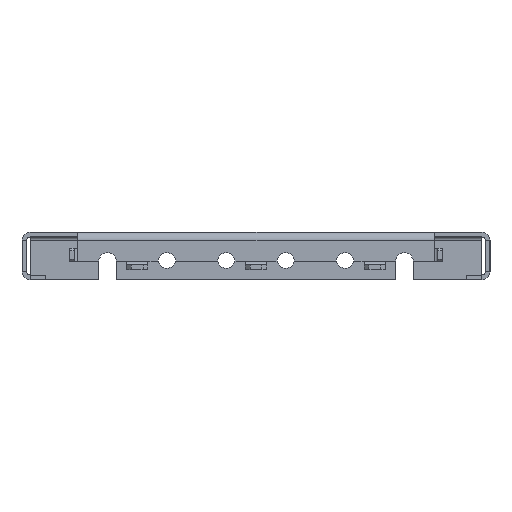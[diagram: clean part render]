
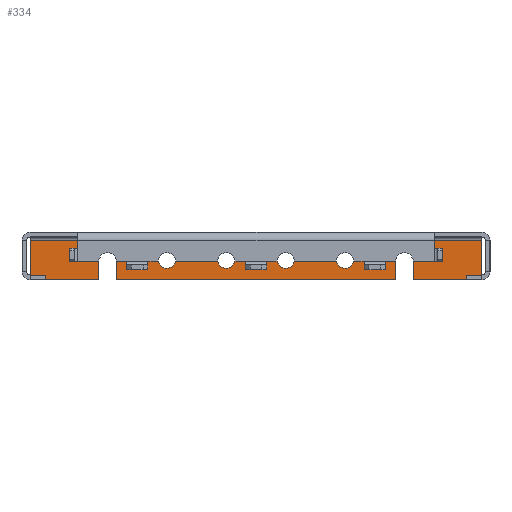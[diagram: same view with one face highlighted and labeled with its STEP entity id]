
A CAD part, left-side view. The second image highlights one B-rep face of the part: STEP entity #334.
In plain terms, the highlighted planar face has unit normal (-1, 0, 0).
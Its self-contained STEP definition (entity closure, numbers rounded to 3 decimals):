
#334=ADVANCED_FACE('',(#2698,#2700,#2702,#2704,#2706),#2708,.F.);
#2698=FACE_BOUND('',#2699,.T.);
#2699=EDGE_LOOP('',(#5445,#5446,#5447,#5448,#5449,#5450,#5451,#5452,#5453,#5454,
#5455,#5456));
#2700=FACE_BOUND('',#2701,.T.);
#2701=EDGE_LOOP('',(#5457));
#2702=FACE_BOUND('',#2703,.T.);
#2703=EDGE_LOOP('',(#5458));
#2704=FACE_BOUND('',#2705,.T.);
#2705=EDGE_LOOP('',(#5459));
#2706=FACE_BOUND('',#2707,.T.);
#2707=EDGE_LOOP('',(#5460));
#2708=PLANE('',#2709);
#2709=AXIS2_PLACEMENT_3D('',#2710,#2711,#2712);
#2710=CARTESIAN_POINT('',(166.15,0.,0.));
#2711=DIRECTION('',(1.,0.,0.));
#2712=DIRECTION('',(0.,0.,-1.));
#5445=ORIENTED_EDGE('',*,*,#7549,.F.);
#5446=ORIENTED_EDGE('',*,*,#7550,.T.);
#5447=ORIENTED_EDGE('',*,*,#7551,.F.);
#5448=ORIENTED_EDGE('',*,*,#7552,.T.);
#5449=ORIENTED_EDGE('',*,*,#7553,.T.);
#5450=ORIENTED_EDGE('',*,*,#7554,.F.);
#5451=ORIENTED_EDGE('',*,*,#7555,.T.);
#5452=ORIENTED_EDGE('',*,*,#7556,.T.);
#5453=ORIENTED_EDGE('',*,*,#7557,.T.);
#5454=ORIENTED_EDGE('',*,*,#7558,.T.);
#5455=ORIENTED_EDGE('',*,*,#7559,.T.);
#5456=ORIENTED_EDGE('',*,*,#7560,.T.);
#5457=ORIENTED_EDGE('',*,*,#6772,.T.);
#5458=ORIENTED_EDGE('',*,*,#6770,.T.);
#5459=ORIENTED_EDGE('',*,*,#6768,.T.);
#5460=ORIENTED_EDGE('',*,*,#6766,.T.);
#6766=EDGE_CURVE('',#7943,#7943,#7944,.T.);
#6768=EDGE_CURVE('',#7947,#7947,#7948,.T.);
#6770=EDGE_CURVE('',#7951,#7951,#7952,.T.);
#6772=EDGE_CURVE('',#7955,#7955,#7956,.T.);
#7549=EDGE_CURVE('',#9361,#9362,#9363,.T.);
#7550=EDGE_CURVE('',#9361,#9364,#9365,.T.);
#7551=EDGE_CURVE('',#9366,#9364,#9367,.T.);
#7552=EDGE_CURVE('',#9366,#9368,#9369,.T.);
#7553=EDGE_CURVE('',#9368,#9370,#9371,.T.);
#7554=EDGE_CURVE('',#9372,#9370,#9373,.T.);
#7555=EDGE_CURVE('',#9372,#9374,#9375,.T.);
#7556=EDGE_CURVE('',#9374,#9376,#9377,.T.);
#7557=EDGE_CURVE('',#9376,#9378,#9379,.T.);
#7558=EDGE_CURVE('',#9378,#9380,#9381,.T.);
#7559=EDGE_CURVE('',#9380,#9382,#9383,.T.);
#7560=EDGE_CURVE('',#9382,#9362,#9384,.T.);
#7943=VERTEX_POINT('',#9882);
#7944=CIRCLE('',#9883,3.65);
#7947=VERTEX_POINT('',#9892);
#7948=CIRCLE('',#9893,3.65);
#7951=VERTEX_POINT('',#9902);
#7952=CIRCLE('',#9903,3.65);
#7955=VERTEX_POINT('',#9912);
#7956=CIRCLE('',#9913,3.65);
#9361=VERTEX_POINT('',#13279);
#9362=VERTEX_POINT('',#13280);
#9363=LINE('',#13281,#13282);
#9364=VERTEX_POINT('',#13284);
#9365=CIRCLE('',#13285,3.65);
#9366=VERTEX_POINT('',#13289);
#9367=LINE('',#13290,#13291);
#9368=VERTEX_POINT('',#13293);
#9369=LINE('',#13294,#13295);
#9370=VERTEX_POINT('',#13297);
#9371=LINE('',#13298,#13299);
#9372=VERTEX_POINT('',#13301);
#9373=LINE('',#13302,#13303);
#9374=VERTEX_POINT('',#13305);
#9375=LINE('',#13306,#13307);
#9376=VERTEX_POINT('',#13309);
#9377=LINE('',#13310,#13311);
#9378=VERTEX_POINT('',#13313);
#9379=LINE('',#13314,#13315);
#9380=VERTEX_POINT('',#13317);
#9381=CIRCLE('',#13318,3.65);
#9382=VERTEX_POINT('',#13322);
#9383=LINE('',#13323,#13324);
#9384=LINE('',#13326,#13327);
#9882=CARTESIAN_POINT('',(166.15,37.5,-15.15));
#9883=AXIS2_PLACEMENT_3D('',#9884,#9885,#9886);
#9884=CARTESIAN_POINT('',(166.15,37.5,-11.5));
#9885=DIRECTION('',(1.,0.,0.));
#9886=DIRECTION('',(0.,0.,1.));
#9892=CARTESIAN_POINT('',(166.15,-37.5,-15.15));
#9893=AXIS2_PLACEMENT_3D('',#9894,#9895,#9896);
#9894=CARTESIAN_POINT('',(166.15,-37.5,-11.5));
#9895=DIRECTION('',(1.,0.,0.));
#9896=DIRECTION('',(0.,0.,1.));
#9902=CARTESIAN_POINT('',(166.15,-12.5,-15.15));
#9903=AXIS2_PLACEMENT_3D('',#9904,#9905,#9906);
#9904=CARTESIAN_POINT('',(166.15,-12.5,-11.5));
#9905=DIRECTION('',(1.,0.,0.));
#9906=DIRECTION('',(0.,0.,1.));
#9912=CARTESIAN_POINT('',(166.15,12.5,-15.15));
#9913=AXIS2_PLACEMENT_3D('',#9914,#9915,#9916);
#9914=CARTESIAN_POINT('',(166.15,12.5,-11.5));
#9915=DIRECTION('',(1.,0.,0.));
#9916=DIRECTION('',(0.,0.,1.));
#13279=CARTESIAN_POINT('',(166.15,-58.85,-11.5));
#13280=CARTESIAN_POINT('',(166.15,-58.85,-20.));
#13281=CARTESIAN_POINT('',(166.15,-58.85,-11.5));
#13282=VECTOR('',#13283,1.);
#13283=DIRECTION('',(0.,0.,-1.));
#13284=CARTESIAN_POINT('',(166.15,-66.15,-11.5));
#13285=AXIS2_PLACEMENT_3D('',#13286,#13287,#13288);
#13286=CARTESIAN_POINT('',(166.15,-62.5,-11.5));
#13287=DIRECTION('',(1.,0.,0.));
#13288=DIRECTION('',(0.,1.,0.));
#13289=CARTESIAN_POINT('',(166.15,-66.15,-20.));
#13290=CARTESIAN_POINT('',(166.15,-66.15,-20.));
#13291=VECTOR('',#13292,1.);
#13292=DIRECTION('',(0.,0.,1.));
#13293=CARTESIAN_POINT('',(166.15,-95.1,-20.));
#13294=CARTESIAN_POINT('',(166.15,-66.15,-20.));
#13295=VECTOR('',#13296,1.);
#13296=DIRECTION('',(0.,-1.,0.));
#13297=CARTESIAN_POINT('',(166.15,-95.1,-3.4));
#13298=CARTESIAN_POINT('',(166.15,-95.1,-20.));
#13299=VECTOR('',#13300,1.);
#13300=DIRECTION('',(0.,0.,1.));
#13301=CARTESIAN_POINT('',(166.15,95.1,-3.4));
#13302=CARTESIAN_POINT('',(166.15,95.1,-3.4));
#13303=VECTOR('',#13304,1.);
#13304=DIRECTION('',(0.,-1.,0.));
#13305=CARTESIAN_POINT('',(166.15,95.1,-20.));
#13306=CARTESIAN_POINT('',(166.15,95.1,-3.4));
#13307=VECTOR('',#13308,1.);
#13308=DIRECTION('',(0.,0.,-1.));
#13309=CARTESIAN_POINT('',(166.15,66.15,-20.));
#13310=CARTESIAN_POINT('',(166.15,95.1,-20.));
#13311=VECTOR('',#13312,1.);
#13312=DIRECTION('',(0.,-1.,0.));
#13313=CARTESIAN_POINT('',(166.15,66.15,-11.5));
#13314=CARTESIAN_POINT('',(166.15,66.15,-20.));
#13315=VECTOR('',#13316,1.);
#13316=DIRECTION('',(0.,0.,1.));
#13317=CARTESIAN_POINT('',(166.15,58.85,-11.5));
#13318=AXIS2_PLACEMENT_3D('',#13319,#13320,#13321);
#13319=CARTESIAN_POINT('',(166.15,62.5,-11.5));
#13320=DIRECTION('',(1.,0.,0.));
#13321=DIRECTION('',(0.,1.,0.));
#13322=CARTESIAN_POINT('',(166.15,58.85,-20.));
#13323=CARTESIAN_POINT('',(166.15,58.85,-11.5));
#13324=VECTOR('',#13325,1.);
#13325=DIRECTION('',(0.,0.,-1.));
#13326=CARTESIAN_POINT('',(166.15,58.85,-20.));
#13327=VECTOR('',#13328,1.);
#13328=DIRECTION('',(0.,-1.,0.));
